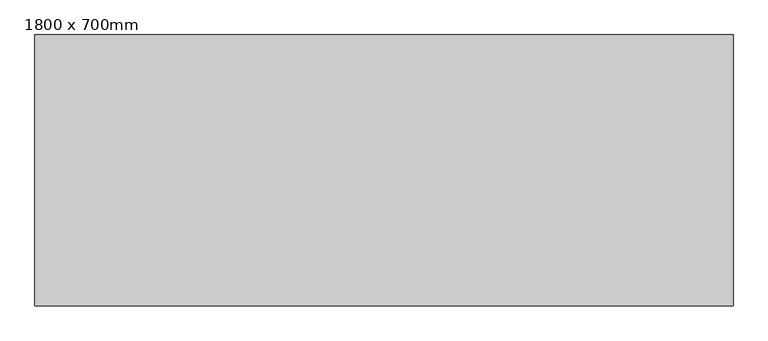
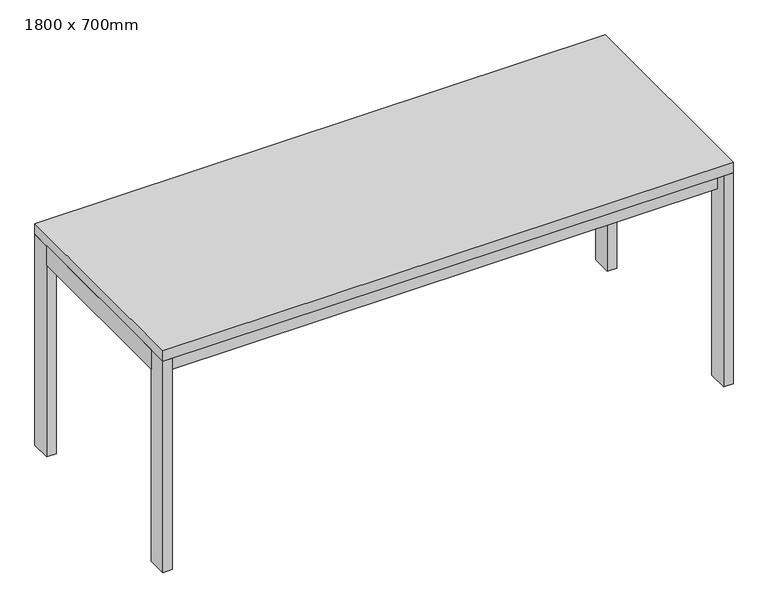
"""IFC4 building model written with IfcOpenShell, lengths in millimetres: furniture geometry, Table - Allround : 1800 x 700mm."""

from ifc_helpers import new_model, si_unit, frame, origin, origin_with_axes, place, context, project, spatial, polyline, outline, extrude, source, transform, mapped, element, save


def furniture_1800_x_700mm_2eab36f4(model_context):
    return source(origin(), model_context, "Body", "SweptSolid", [
        extrude(outline(polyline([(870.0, 315.0), (870.0, 289.6), (-870.0, 289.6), (-870.0, 315.0), (870.0, 315.0)])), frame((0.0, 0.0, 640.0), z_axis=(0.0, 0.0, 1.0), x_axis=(1.0, 0.0, 0.0)), (0.0, 0.0, 1.0), 65.0),
        extrude(outline(polyline([(870.0, -315.0), (-870.0, -315.0), (-870.0, -289.6), (870.0, -289.6), (870.0, -315.0)])), frame((0.0, 0.0, 640.0), z_axis=(0.0, 0.0, 1.0), x_axis=(1.0, 0.0, 0.0)), (0.0, 0.0, 1.0), 65.0),
        extrude(outline(polyline([(-870.0, -286.5), (-900.0, -286.5), (-900.0, 286.5), (-870.0, 286.5), (-870.0, -286.5)])), frame((0.0, 0.0, 640.0), z_axis=(0.0, 0.0, 1.0), x_axis=(1.0, 0.0, 0.0)), (0.0, 0.0, 1.0), 65.0),
        extrude(outline(polyline([(870.0, -286.5), (870.0, 286.5), (900.0, 286.5), (900.0, -286.5), (870.0, -286.5)])), frame((0.0, 0.0, 640.0), z_axis=(0.0, 0.0, 1.0), x_axis=(1.0, 0.0, 0.0)), (0.0, 0.0, 1.0), 65.0),
        extrude(outline(polyline([(900.0, 350.0), (900.0, -350.0), (-900.0, -350.0), (-900.0, 350.0), (900.0, 350.0)])), frame((0.0, 0.0, 705.0), z_axis=(0.0, 0.0, 1.0), x_axis=(1.0, 0.0, 0.0)), (0.0, 0.0, 1.0), 35.0),
        extrude(outline(polyline([(-870.0, 350.0), (-870.0, 286.5), (-900.0, 286.5), (-900.0, 350.0), (-870.0, 350.0)])), origin_with_axes(), (0.0, 0.0, 1.0), 705.0),
        extrude(outline(polyline([(870.0, 350.0), (900.0, 350.0), (900.0, 286.5), (870.0, 286.5), (870.0, 350.0)])), origin_with_axes(), (0.0, 0.0, 1.0), 705.0),
        extrude(outline(polyline([(-870.0, -350.0), (-900.0, -350.0), (-900.0, -286.5), (-870.0, -286.5), (-870.0, -350.0)])), origin_with_axes(), (0.0, 0.0, 1.0), 705.0),
        extrude(outline(polyline([(870.0, -350.0), (870.0, -286.5), (900.0, -286.5), (900.0, -350.0), (870.0, -350.0)])), origin_with_axes(), (0.0, 0.0, 1.0), 705.0),
    ])


if __name__ == "__main__":
    model = new_model("IFC4")
    model_context = context("Model", 3, world=origin())
    ifc_project = project(units=[si_unit("LENGTHUNIT", "METRE", prefix="MILLI")], contexts=[model_context])
    site = spatial("IfcSite", under=ifc_project)
    building = spatial("IfcBuilding", under=site)
    placement = place(None, origin())
    furniture_1800_x_700mm_shape = furniture_1800_x_700mm_2eab36f4(model_context)
    element("IfcFurniture", 1, ObjectType="Table - Allround : 1800 x 700mm", at=placement, inside=building, context=model_context, shape_type="MappedRepresentation", body=[
        mapped(furniture_1800_x_700mm_shape, transform((0.0, 0.0, 0.0), x_axis=(1.0, 0.0, 0.0), y_axis=(0.0, 1.0, 0.0), z_axis=(0.0, 0.0, 1.0))),
    ])
    save(model, "model.ifc")
